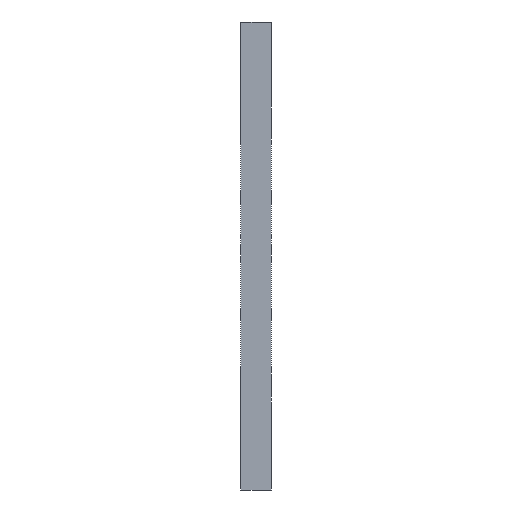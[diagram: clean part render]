
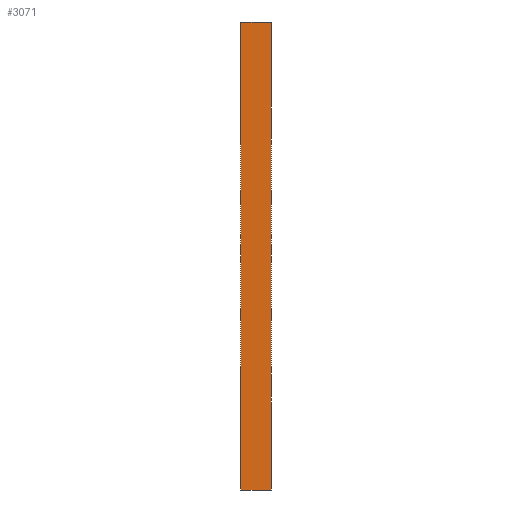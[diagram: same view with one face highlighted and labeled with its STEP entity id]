
A CAD part, left-side view. The second image highlights one B-rep face of the part: STEP entity #3071.
In plain terms, the highlighted planar face has unit normal (-1, 0, 0).
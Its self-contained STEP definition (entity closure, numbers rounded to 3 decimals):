
#808 = DIRECTION ( 'NONE',  ( 0., 0., 1. ) ) ;
#846 = VECTOR ( 'NONE', #1484, 1000. ) ;
#1069 = EDGE_CURVE ( 'NONE', #7438, #9061, #3554, .T. ) ;
#1484 = DIRECTION ( 'NONE',  ( 0., -1., 0. ) ) ;
#1621 = LINE ( 'NONE', #1767, #6401 ) ;
#1767 = CARTESIAN_POINT ( 'NONE',  ( -100., 0., -100. ) ) ;
#2104 = VECTOR ( 'NONE', #9065, 1000. ) ;
#2162 = CARTESIAN_POINT ( 'NONE',  ( -100., 13., -100. ) ) ;
#2286 = VERTEX_POINT ( 'NONE', #2986 ) ;
#2461 = EDGE_CURVE ( 'NONE', #9061, #2286, #1621, .T. ) ;
#2663 = ORIENTED_EDGE ( 'NONE', *, *, #5670, .F. ) ;
#2986 = CARTESIAN_POINT ( 'NONE',  ( -100., 0., 100. ) ) ;
#3071 = ADVANCED_FACE ( 'NONE', ( #9206 ), #3490, .F. ) ;
#3142 = EDGE_CURVE ( 'NONE', #7438, #5712, #3664, .T. ) ;
#3490 = PLANE ( 'NONE',  #8797 ) ;
#3523 = EDGE_LOOP ( 'NONE', ( #4390, #2663, #9271, #9224 ) ) ;
#3554 = LINE ( 'NONE', #5722, #846 ) ;
#3664 = LINE ( 'NONE', #7188, #6706 ) ;
#4390 = ORIENTED_EDGE ( 'NONE', *, *, #2461, .T. ) ;
#5464 = CARTESIAN_POINT ( 'NONE',  ( -100., 13., 100. ) ) ;
#5511 = CARTESIAN_POINT ( 'NONE',  ( -100., 13., 100. ) ) ;
#5670 = EDGE_CURVE ( 'NONE', #5712, #2286, #9024, .T. ) ;
#5712 = VERTEX_POINT ( 'NONE', #5511 ) ;
#5722 = CARTESIAN_POINT ( 'NONE',  ( -100., 13., -100. ) ) ;
#6000 = DIRECTION ( 'NONE',  ( 0., 0., 1. ) ) ;
#6401 = VECTOR ( 'NONE', #6000, 1000. ) ;
#6706 = VECTOR ( 'NONE', #808, 1000. ) ;
#7188 = CARTESIAN_POINT ( 'NONE',  ( -100., 13., -100. ) ) ;
#7438 = VERTEX_POINT ( 'NONE', #2162 ) ;
#7805 = DIRECTION ( 'NONE',  ( 0., 0., -1. ) ) ;
#7889 = DIRECTION ( 'NONE',  ( 1., 0., 0. ) ) ;
#7938 = CARTESIAN_POINT ( 'NONE',  ( -100., 13., -100. ) ) ;
#8709 = CARTESIAN_POINT ( 'NONE',  ( -100., 0., -100. ) ) ;
#8797 = AXIS2_PLACEMENT_3D ( 'NONE', #7938, #7889, #7805 ) ;
#9024 = LINE ( 'NONE', #5464, #2104 ) ;
#9061 = VERTEX_POINT ( 'NONE', #8709 ) ;
#9065 = DIRECTION ( 'NONE',  ( 0., -1., 0. ) ) ;
#9206 = FACE_OUTER_BOUND ( 'NONE', #3523, .T. ) ;
#9224 = ORIENTED_EDGE ( 'NONE', *, *, #1069, .T. ) ;
#9271 = ORIENTED_EDGE ( 'NONE', *, *, #3142, .F. ) ;
